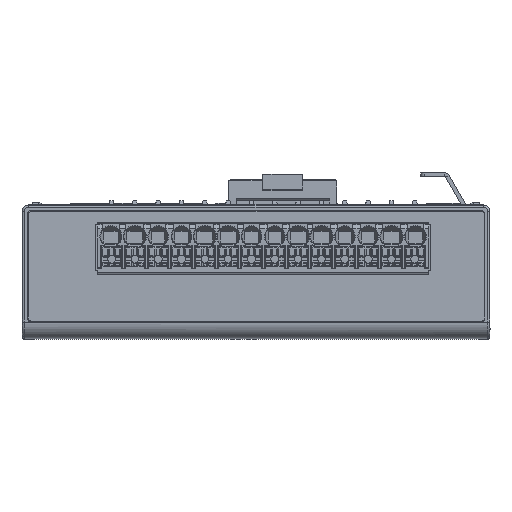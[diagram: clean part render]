
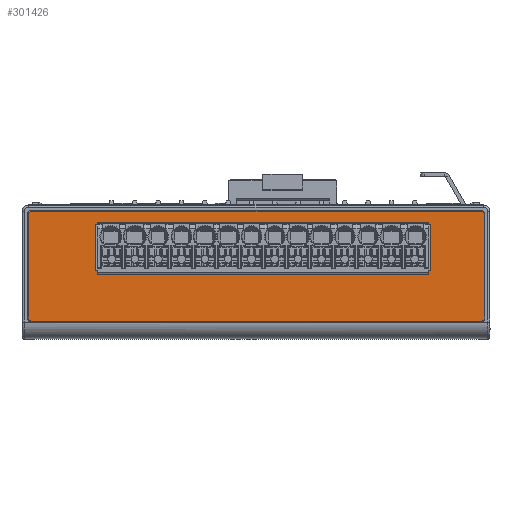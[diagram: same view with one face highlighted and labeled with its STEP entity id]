
A CAD part, top view. The second image highlights one B-rep face of the part: STEP entity #301426.
In plain terms, the highlighted planar face has unit normal (0, 0, 1) as drawn and (0, 1, 0) by its records, which use the part's own axes.
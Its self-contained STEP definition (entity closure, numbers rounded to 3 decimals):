
#301115=DIRECTION('',(0.,0.,-1.));
#301116=VECTOR('',#301115,67.4);
#301117=CARTESIAN_POINT('',(40.275,94.52,15.57));
#301118=LINE('',#301117,#301116);
#301123=DIRECTION('',(1.,0.,0.));
#301124=VECTOR('',#301123,15.5);
#301125=CARTESIAN_POINT('',(24.275,94.52,16.07));
#301126=LINE('',#301125,#301124);
#301139=DIRECTION('',(0.,0.,1.));
#301140=VECTOR('',#301139,67.4);
#301141=CARTESIAN_POINT('',(23.775,94.52,-51.83));
#301142=LINE('',#301141,#301140);
#301151=CARTESIAN_POINT('',(24.275,94.52,-51.83));
#301152=DIRECTION('',(0.,1.,0.));
#301153=DIRECTION('',(0.,0.,-1.));
#301154=AXIS2_PLACEMENT_3D('',#301151,#301152,#301153);
#301156=DIRECTION('',(1.,0.,0.));
#301157=VECTOR('',#301156,15.5);
#301158=CARTESIAN_POINT('',(24.275,94.52,-52.33));
#301159=LINE('',#301158,#301157);
#301160=CARTESIAN_POINT('',(39.775,94.52,-51.83));
#301161=DIRECTION('',(0.,1.,0.));
#301162=DIRECTION('',(1.,0.,0.));
#301163=AXIS2_PLACEMENT_3D('',#301160,#301161,#301162);
#301165=CARTESIAN_POINT('',(39.775,94.52,15.57));
#301166=DIRECTION('',(0.,1.,0.));
#301167=DIRECTION('',(0.,0.,1.));
#301168=AXIS2_PLACEMENT_3D('',#301165,#301166,#301167);
#301170=CARTESIAN_POINT('',(24.275,94.52,15.57));
#301171=DIRECTION('',(0.,1.,0.));
#301172=DIRECTION('',(-1.,0.,0.));
#301173=AXIS2_PLACEMENT_3D('',#301170,#301171,#301172);
#301175=DIRECTION('',(0.,0.,-1.));
#301176=VECTOR('',#301175,50.3);
#301177=CARTESIAN_POINT('',(38.375,94.52,8.019));
#301178=LINE('',#301177,#301176);
#301179=DIRECTION('',(-1.,0.,0.));
#301180=VECTOR('',#301179,7.001);
#301181=CARTESIAN_POINT('',(38.375,94.52,-42.28));
#301182=LINE('',#301181,#301180);
#301183=DIRECTION('',(0.,0.,1.));
#301184=VECTOR('',#301183,50.3);
#301185=CARTESIAN_POINT('',(31.374,94.52,-42.28));
#301186=LINE('',#301185,#301184);
#301187=DIRECTION('',(1.,0.,0.));
#301188=VECTOR('',#301187,7.001);
#301189=CARTESIAN_POINT('',(31.374,94.52,8.019));
#301190=LINE('',#301189,#301188);
#301211=CARTESIAN_POINT('',(24.275,94.52,-52.33));
#301212=VERTEX_POINT('',#301211);
#301213=CARTESIAN_POINT('',(23.775,94.52,-51.83));
#301214=VERTEX_POINT('',#301213);
#301219=CARTESIAN_POINT('',(40.275,94.52,-51.83));
#301220=VERTEX_POINT('',#301219);
#301221=CARTESIAN_POINT('',(39.775,94.52,-52.33));
#301222=VERTEX_POINT('',#301221);
#301227=CARTESIAN_POINT('',(23.775,94.52,15.57));
#301228=VERTEX_POINT('',#301227);
#301229=CARTESIAN_POINT('',(24.275,94.52,16.07));
#301230=VERTEX_POINT('',#301229);
#301235=CARTESIAN_POINT('',(39.775,94.52,16.07));
#301236=VERTEX_POINT('',#301235);
#301237=CARTESIAN_POINT('',(40.275,94.52,15.57));
#301238=VERTEX_POINT('',#301237);
#301247=CARTESIAN_POINT('',(38.375,94.52,8.019));
#301248=CARTESIAN_POINT('',(38.375,94.52,-42.28));
#301249=VERTEX_POINT('',#301247);
#301250=VERTEX_POINT('',#301248);
#301251=CARTESIAN_POINT('',(31.374,94.52,-42.28));
#301252=VERTEX_POINT('',#301251);
#301253=CARTESIAN_POINT('',(31.374,94.52,8.019));
#301254=VERTEX_POINT('',#301253);
#301401=CARTESIAN_POINT('',(44.6,94.52,0.));
#301402=DIRECTION('',(0.,1.,0.));
#301403=DIRECTION('',(1.,0.,0.));
#301404=AXIS2_PLACEMENT_3D('',#301401,#301402,#301403);
#301405=PLANE('',#301404);
#301406=ORIENTED_EDGE('',*,*,#301297,.F.);
#301407=ORIENTED_EDGE('',*,*,#301313,.T.);
#301408=ORIENTED_EDGE('',*,*,#301326,.F.);
#301409=ORIENTED_EDGE('',*,*,#301341,.F.);
#301410=ORIENTED_EDGE('',*,*,#301354,.F.);
#301411=ORIENTED_EDGE('',*,*,#301367,.F.);
#301412=ORIENTED_EDGE('',*,*,#301382,.F.);
#301413=ORIENTED_EDGE('',*,*,#301394,.F.);
#301414=EDGE_LOOP('',(#301406,#301407,#301408,#301409,#301410,#301411,#301412,
#301413));
#301415=FACE_OUTER_BOUND('',#301414,.F.);
#301417=ORIENTED_EDGE('',*,*,#301416,.T.);
#301419=ORIENTED_EDGE('',*,*,#301418,.T.);
#301421=ORIENTED_EDGE('',*,*,#301420,.T.);
#301423=ORIENTED_EDGE('',*,*,#301422,.T.);
#301424=EDGE_LOOP('',(#301417,#301419,#301421,#301423));
#301425=FACE_BOUND('',#301424,.F.);
#301426=ADVANCED_FACE('',(#301415,#301425),#301405,.T.);
#301155=CIRCLE('',#301154,0.5);
#301164=CIRCLE('',#301163,0.5);
#301169=CIRCLE('',#301168,0.5);
#301174=CIRCLE('',#301173,0.5);
#301297=EDGE_CURVE('',#301212,#301214,#301155,.T.);
#301313=EDGE_CURVE('',#301212,#301222,#301159,.T.);
#301326=EDGE_CURVE('',#301220,#301222,#301164,.T.);
#301341=EDGE_CURVE('',#301238,#301220,#301118,.T.);
#301354=EDGE_CURVE('',#301236,#301238,#301169,.T.);
#301367=EDGE_CURVE('',#301230,#301236,#301126,.T.);
#301382=EDGE_CURVE('',#301228,#301230,#301174,.T.);
#301394=EDGE_CURVE('',#301214,#301228,#301142,.T.);
#301416=EDGE_CURVE('',#301249,#301250,#301178,.T.);
#301418=EDGE_CURVE('',#301250,#301252,#301182,.T.);
#301420=EDGE_CURVE('',#301252,#301254,#301186,.T.);
#301422=EDGE_CURVE('',#301254,#301249,#301190,.T.);
